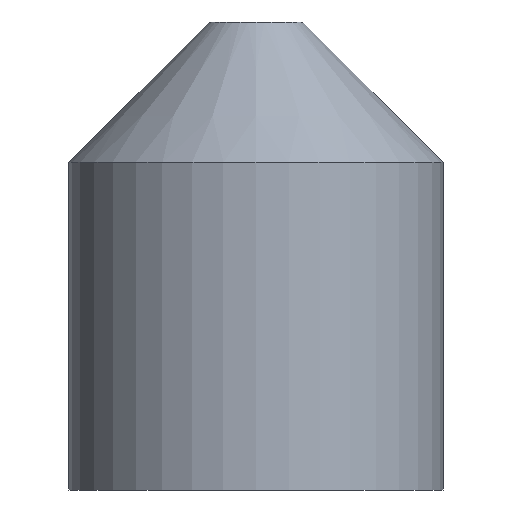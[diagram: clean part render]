
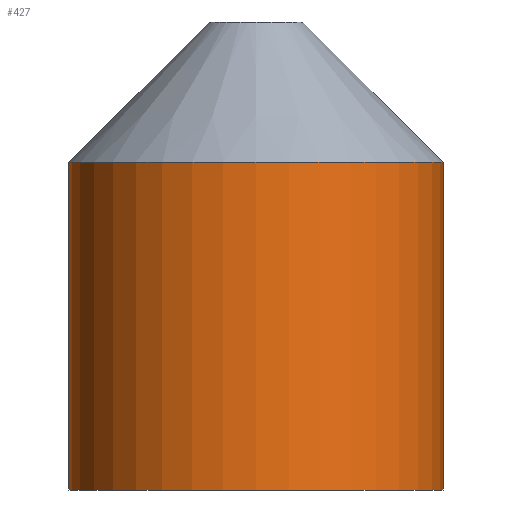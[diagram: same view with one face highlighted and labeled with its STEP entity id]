
A CAD part, front view. The second image highlights one B-rep face of the part: STEP entity #427.
In plain terms, the highlighted cylindrical face has radius 4 mm (diameter 8 mm), a partial arc.
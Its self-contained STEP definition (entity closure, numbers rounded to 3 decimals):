
#4 = CIRCLE ( 'NONE', #156, 4. ) ;
#9 = CARTESIAN_POINT ( 'NONE',  ( -4.721, 7.015, 10. ) ) ;
#31 = CARTESIAN_POINT ( 'NONE',  ( -4.721, 7.015, 0. ) ) ;
#35 = DIRECTION ( 'NONE',  ( 1., 0., 0. ) ) ;
#36 = LINE ( 'NONE', #9, #328 ) ;
#60 = EDGE_CURVE ( 'NONE', #83, #351, #277, .T. ) ;
#62 = FACE_OUTER_BOUND ( 'NONE', #165, .T. ) ;
#70 = DIRECTION ( 'NONE',  ( 0., 0., -1. ) ) ;
#73 = AXIS2_PLACEMENT_3D ( 'NONE', #258, #70, #35 ) ;
#79 = CARTESIAN_POINT ( 'NONE',  ( -12.721, 7.015, 0. ) ) ;
#83 = VERTEX_POINT ( 'NONE', #273 ) ;
#100 = EDGE_CURVE ( 'NONE', #83, #126, #36, .T. ) ;
#126 = VERTEX_POINT ( 'NONE', #31 ) ;
#139 = ORIENTED_EDGE ( 'NONE', *, *, #60, .T. ) ;
#153 = LINE ( 'NONE', #415, #295 ) ;
#155 = DIRECTION ( 'NONE',  ( 0., 0., 1. ) ) ;
#156 = AXIS2_PLACEMENT_3D ( 'NONE', #187, #155, #259 ) ;
#157 = AXIS2_PLACEMENT_3D ( 'NONE', #346, #253, #283 ) ;
#159 = EDGE_CURVE ( 'NONE', #195, #126, #4, .T. ) ;
#165 = EDGE_LOOP ( 'NONE', ( #325, #139, #268, #185 ) ) ;
#185 = ORIENTED_EDGE ( 'NONE', *, *, #159, .T. ) ;
#187 = CARTESIAN_POINT ( 'NONE',  ( -8.721, 7.015, 0. ) ) ;
#195 = VERTEX_POINT ( 'NONE', #79 ) ;
#253 = DIRECTION ( 'NONE',  ( 0., 0., -1. ) ) ;
#258 = CARTESIAN_POINT ( 'NONE',  ( -8.721, 7.015, 7. ) ) ;
#259 = DIRECTION ( 'NONE',  ( 1., 0., 0. ) ) ;
#268 = ORIENTED_EDGE ( 'NONE', *, *, #405, .T. ) ;
#273 = CARTESIAN_POINT ( 'NONE',  ( -4.721, 7.015, 7. ) ) ;
#277 = CIRCLE ( 'NONE', #73, 4. ) ;
#283 = DIRECTION ( 'NONE',  ( -1., 0., 0. ) ) ;
#295 = VECTOR ( 'NONE', #418, 1000. ) ;
#304 = DIRECTION ( 'NONE',  ( 0., 0., -1. ) ) ;
#325 = ORIENTED_EDGE ( 'NONE', *, *, #100, .F. ) ;
#328 = VECTOR ( 'NONE', #304, 1000. ) ;
#346 = CARTESIAN_POINT ( 'NONE',  ( -8.721, 7.015, 10. ) ) ;
#351 = VERTEX_POINT ( 'NONE', #381 ) ;
#381 = CARTESIAN_POINT ( 'NONE',  ( -12.721, 7.015, 7. ) ) ;
#398 = CYLINDRICAL_SURFACE ( 'NONE', #157, 4. ) ;
#405 = EDGE_CURVE ( 'NONE', #351, #195, #153, .T. ) ;
#415 = CARTESIAN_POINT ( 'NONE',  ( -12.721, 7.015, 10. ) ) ;
#418 = DIRECTION ( 'NONE',  ( 0., 0., -1. ) ) ;
#427 = ADVANCED_FACE ( 'NONE', ( #62 ), #398, .T. ) ;
